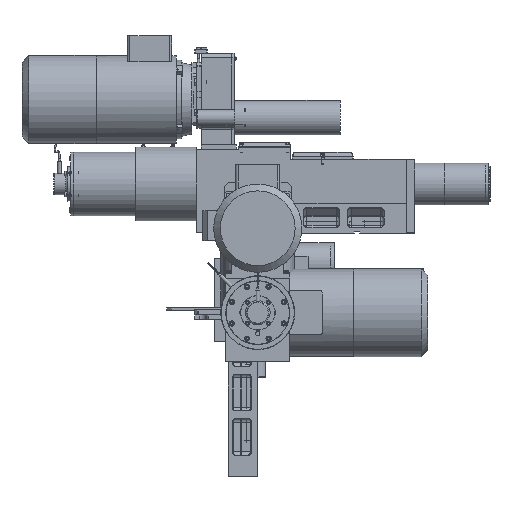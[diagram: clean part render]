
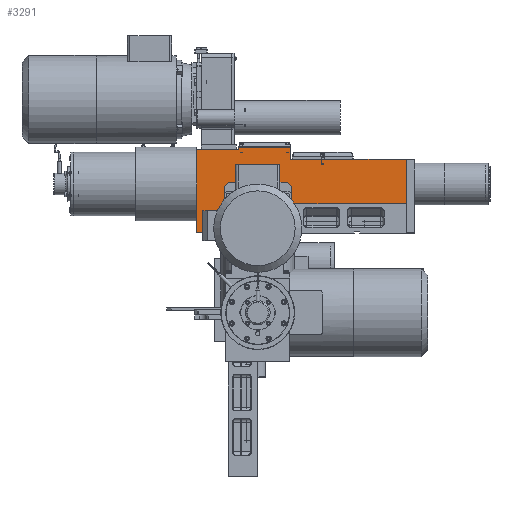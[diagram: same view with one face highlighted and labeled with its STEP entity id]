
A CAD part, front view. The second image highlights one B-rep face of the part: STEP entity #3291.
In plain terms, the highlighted planar face has unit normal (0, -1, 0).
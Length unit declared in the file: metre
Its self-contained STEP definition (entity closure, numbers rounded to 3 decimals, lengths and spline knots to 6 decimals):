
#3291 = ADVANCED_FACE( '', ( #5143 ), #5144, .T. );
#5143 = FACE_OUTER_BOUND( '', #9687, .T. );
#5144 = PLANE( '', #9688 );
#9687 = EDGE_LOOP( '', ( #16183, #16184, #16185, #16186, #16187, #16188, #16189, #16190, #16191, #16192 ) );
#9688 = AXIS2_PLACEMENT_3D( '', #16193, #16194, #16195 );
#16183 = ORIENTED_EDGE( '', *, *, #21036, .T. );
#16184 = ORIENTED_EDGE( '', *, *, #21037, .T. );
#16185 = ORIENTED_EDGE( '', *, *, #21038, .F. );
#16186 = ORIENTED_EDGE( '', *, *, #21039, .T. );
#16187 = ORIENTED_EDGE( '', *, *, #21040, .T. );
#16188 = ORIENTED_EDGE( '', *, *, #21041, .T. );
#16189 = ORIENTED_EDGE( '', *, *, #21042, .T. );
#16190 = ORIENTED_EDGE( '', *, *, #21043, .T. );
#16191 = ORIENTED_EDGE( '', *, *, #21044, .T. );
#16192 = ORIENTED_EDGE( '', *, *, #21045, .T. );
#16193 = CARTESIAN_POINT( '', ( 0.337, -0.003889, 0. ) );
#16194 = DIRECTION( '', ( 0., -1., 0. ) );
#16195 = DIRECTION( '', ( 1., 0., 0. ) );
#21036 = EDGE_CURVE( '', #23967, #23968, #23969, .T. );
#21037 = EDGE_CURVE( '', #23968, #23970, #23971, .T. );
#21038 = EDGE_CURVE( '', #23972, #23970, #23973, .T. );
#21039 = EDGE_CURVE( '', #23972, #23974, #23975, .T. );
#21040 = EDGE_CURVE( '', #23974, #23976, #23977, .T. );
#21041 = EDGE_CURVE( '', #23976, #23978, #23979, .T. );
#21042 = EDGE_CURVE( '', #23978, #23980, #23981, .T. );
#21043 = EDGE_CURVE( '', #23980, #23982, #23983, .T. );
#21044 = EDGE_CURVE( '', #23982, #23984, #23985, .T. );
#21045 = EDGE_CURVE( '', #23984, #23967, #23986, .T. );
#23967 = VERTEX_POINT( '', #29887 );
#23968 = VERTEX_POINT( '', #29888 );
#23969 = LINE( '', #29889, #29890 );
#23970 = VERTEX_POINT( '', #29891 );
#23971 = LINE( '', #29892, #29893 );
#23972 = VERTEX_POINT( '', #29894 );
#23973 = LINE( '', #29895, #29896 );
#23974 = VERTEX_POINT( '', #29897 );
#23975 = LINE( '', #29898, #29899 );
#23976 = VERTEX_POINT( '', #29900 );
#23977 = LINE( '', #29901, #29902 );
#23978 = VERTEX_POINT( '', #29903 );
#23979 = LINE( '', #29904, #29905 );
#23980 = VERTEX_POINT( '', #29906 );
#23981 = LINE( '', #29907, #29908 );
#23982 = VERTEX_POINT( '', #29909 );
#23983 = LINE( '', #29910, #29911 );
#23984 = VERTEX_POINT( '', #29912 );
#23985 = LINE( '', #29913, #29914 );
#23986 = LINE( '', #29915, #29916 );
#29887 = CARTESIAN_POINT( '', ( -0.003, -0.003889, 0.11 ) );
#29888 = CARTESIAN_POINT( '', ( -0.088, -0.003889, 0.11 ) );
#29889 = CARTESIAN_POINT( '', ( 0.14575, -0.003889, 0.11 ) );
#29890 = VECTOR( '', #34482, 1. );
#29891 = CARTESIAN_POINT( '', ( -0.088, -0.003889, -0.059 ) );
#29892 = CARTESIAN_POINT( '', ( -0.088, -0.003889, -0.059 ) );
#29893 = VECTOR( '', #34483, 1. );
#29894 = CARTESIAN_POINT( '', ( -0.005, -0.003889, -0.059 ) );
#29895 = CARTESIAN_POINT( '', ( -0.005, -0.003889, -0.059 ) );
#29896 = VECTOR( '', #34484, 1. );
#29897 = CARTESIAN_POINT( '', ( -0.005, -0.003889, 0. ) );
#29898 = CARTESIAN_POINT( '', ( -0.005, -0.003889, -0.059 ) );
#29899 = VECTOR( '', #34485, 1. );
#29900 = CARTESIAN_POINT( '', ( 0.337, -0.003889, 0. ) );
#29901 = CARTESIAN_POINT( '', ( -0.005, -0.003889, 0. ) );
#29902 = VECTOR( '', #34486, 1. );
#29903 = CARTESIAN_POINT( '', ( 0.337, -0.003889, 0.09 ) );
#29904 = CARTESIAN_POINT( '', ( 0.337, -0.003889, 0. ) );
#29905 = VECTOR( '', #34487, 1. );
#29906 = CARTESIAN_POINT( '', ( 0.102, -0.003889, 0.09 ) );
#29907 = CARTESIAN_POINT( '', ( -0.005, -0.003889, 0.09 ) );
#29908 = VECTOR( '', #34488, 1. );
#29909 = CARTESIAN_POINT( '', ( 0.102, -0.003889, 0.115 ) );
#29910 = CARTESIAN_POINT( '', ( 0.102, -0.003889, 0.09 ) );
#29911 = VECTOR( '', #34489, 1. );
#29912 = CARTESIAN_POINT( '', ( -0.003, -0.003889, 0.115 ) );
#29913 = CARTESIAN_POINT( '', ( -0.005, -0.003889, 0.115 ) );
#29914 = VECTOR( '', #34490, 1. );
#29915 = CARTESIAN_POINT( '', ( -0.003, -0.003889, 0.058735 ) );
#29916 = VECTOR( '', #34491, 1. );
#34482 = DIRECTION( '', ( -1., 0., 0. ) );
#34483 = DIRECTION( '', ( 0., 0., -1. ) );
#34484 = DIRECTION( '', ( -1., 0., 0. ) );
#34485 = DIRECTION( '', ( 0., 0., 1. ) );
#34486 = DIRECTION( '', ( 1., 0., 0. ) );
#34487 = DIRECTION( '', ( 0., 0., 1. ) );
#34488 = DIRECTION( '', ( -1., 0., 0. ) );
#34489 = DIRECTION( '', ( 0., 0., 1. ) );
#34490 = DIRECTION( '', ( -1., 0., 0. ) );
#34491 = DIRECTION( '', ( 0., 0., -1. ) );
